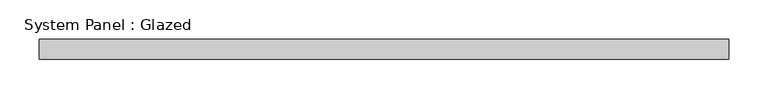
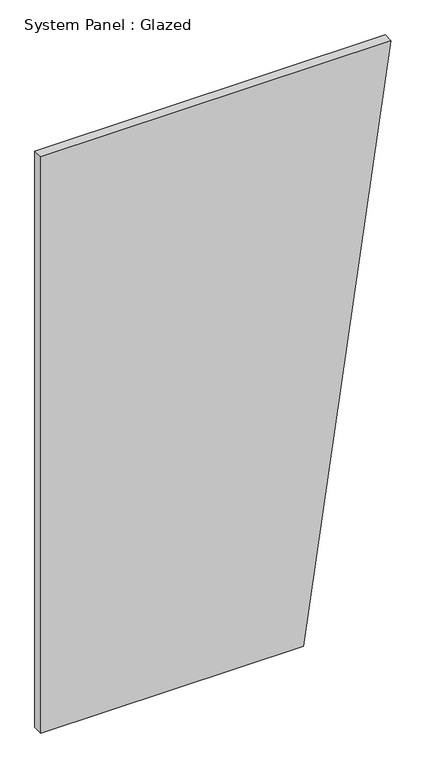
"""IFC4 building model written with IfcOpenShell, lengths in millimetres: plate geometry, System Panel : Glazed."""

from ifc_helpers import new_model, si_unit, frame, origin, place, context, project, spatial, polyline, outline, extrude, source, transform, mapped, element, save


def system_panel_glazed_327a8c87(model_context):
    return source(origin(), model_context, "Body", "SweptSolid", [
        extrude(outline(polyline([(0.0, -438.5611511), (0.0, 219.2805755), (1524.0, 438.5611511), (1524.0, -438.5611511), (0.0, -438.5611511)])), frame((0.0, 19.05, 0.0), z_axis=(0.0, 1.0, 0.0), x_axis=(0.0, 0.0, 1.0)), (0.0, 0.0, 1.0), 25.4),
    ])


if __name__ == "__main__":
    model = new_model("IFC4")
    model_context = context("Model", 3, world=origin())
    ifc_project = project(units=[si_unit("LENGTHUNIT", "METRE", prefix="MILLI")], contexts=[model_context])
    site = spatial("IfcSite", under=ifc_project)
    building = spatial("IfcBuilding", under=site)
    placement = place(None, origin())
    system_panel_glazed_shape = system_panel_glazed_327a8c87(model_context)
    element("IfcPlate", 1, ObjectType="System Panel : Glazed", at=placement, inside=building, context=model_context, shape_type="MappedRepresentation", body=[
        mapped(system_panel_glazed_shape, transform((0.0, 0.0, 0.0), x_axis=(1.0, 0.0, 0.0), y_axis=(0.0, 1.0, 0.0), z_axis=(0.0, 0.0, 1.0))),
    ])
    save(model, "model.ifc")
